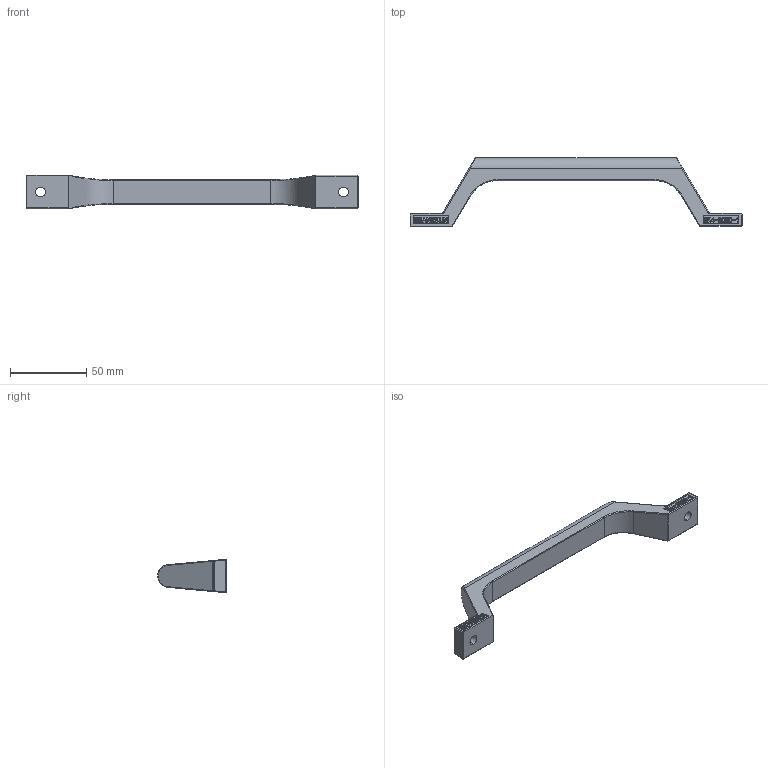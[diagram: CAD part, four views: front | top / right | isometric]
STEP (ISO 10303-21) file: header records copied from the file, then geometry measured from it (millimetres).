
FILE_DESCRIPTION (( 'STEP AP203' ), '1' );
FILE_NAME ('SK4-8080-1.STEP', '2018-11-02T05:35:19', ( 'admin' ), ( 'Microsoft' ), 'SwSTEP 2.0', 'SolidWorks 2015', '' );
FILE_SCHEMA (( 'CONFIG_CONTROL_DESIGN' ));
Length unit declared in the file: millimetre
Products named in the file (1): SK4-8080-1
Bounding box: 218 x 45 x 21.95 mm (x, y, z)
Volume: 49207.3 mm3; surface area: 14812.6 mm2
Topology: 1 solids, 1 shells, 302 faces, 768 edges, 486 vertices
Faces by surface type: plane 165, bspline 71, cylinder 49, sphere 13, cone 4
Entity records: 14285 total; most frequent: CARTESIAN_POINT 7433, ORIENTED_EDGE 1516, DIRECTION 1172, EDGE_CURVE 758, LINE 518, VECTOR 518, VERTEX_POINT 486, EDGE_LOOP 334
